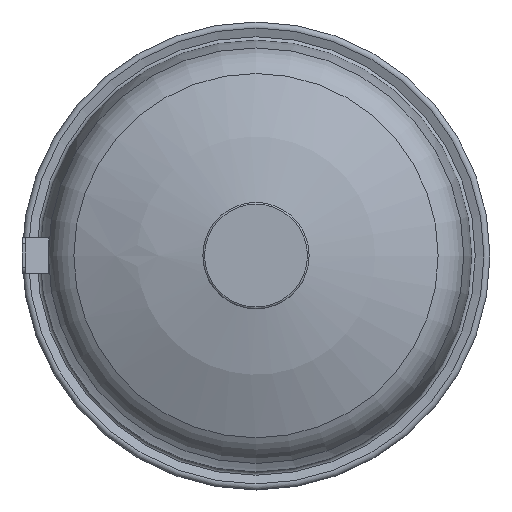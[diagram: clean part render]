
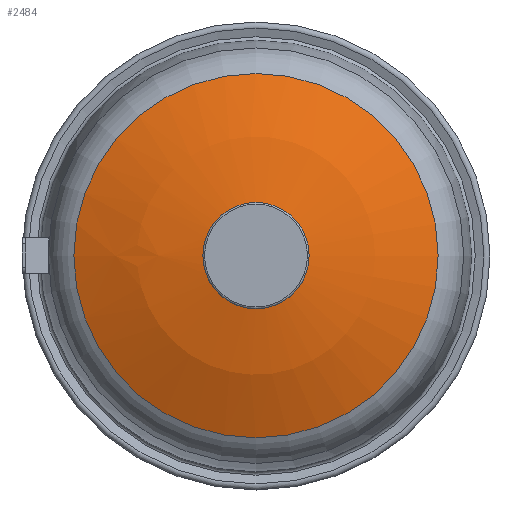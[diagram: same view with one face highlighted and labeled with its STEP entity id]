
A CAD part, top view. The second image highlights one B-rep face of the part: STEP entity #2484.
In plain terms, the highlighted spherical face has radius 366.55 mm.
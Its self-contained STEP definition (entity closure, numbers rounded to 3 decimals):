
#13=SPHERICAL_SURFACE('',#2680,366.55);
#167=FACE_OUTER_BOUND('',#302,.T.);
#302=EDGE_LOOP('',(#1802,#1803,#1804,#1805,#1806,#1807));
#930=CIRCLE('',#2677,154.144);
#931=CIRCLE('',#2678,154.144);
#933=CIRCLE('',#2681,45.);
#934=CIRCLE('',#2682,45.);
#935=CIRCLE('',#2683,366.55);
#1076=VERTEX_POINT('',#3826);
#1077=VERTEX_POINT('',#3827);
#1078=VERTEX_POINT('',#3832);
#1079=VERTEX_POINT('',#3833);
#1351=EDGE_CURVE('',#1076,#1077,#930,.T.);
#1352=EDGE_CURVE('',#1077,#1076,#931,.T.);
#1354=EDGE_CURVE('',#1078,#1079,#933,.T.);
#1355=EDGE_CURVE('',#1079,#1078,#934,.T.);
#1356=EDGE_CURVE('',#1079,#1077,#935,.T.);
#1802=ORIENTED_EDGE('',*,*,#1354,.F.);
#1803=ORIENTED_EDGE('',*,*,#1355,.F.);
#1804=ORIENTED_EDGE('',*,*,#1356,.T.);
#1805=ORIENTED_EDGE('',*,*,#1352,.T.);
#1806=ORIENTED_EDGE('',*,*,#1351,.T.);
#1807=ORIENTED_EDGE('',*,*,#1356,.F.);
#2484=ADVANCED_FACE('',(#167),#13,.T.);
#2677=AXIS2_PLACEMENT_3D('',#3828,#3049,#3050);
#2678=AXIS2_PLACEMENT_3D('',#3829,#3051,#3052);
#2680=AXIS2_PLACEMENT_3D('',#3831,#3055,#3056);
#2681=AXIS2_PLACEMENT_3D('',#3834,#3057,#3058);
#2682=AXIS2_PLACEMENT_3D('',#3835,#3059,#3060);
#2683=AXIS2_PLACEMENT_3D('',#3836,#3061,#3062);
#3049=DIRECTION('center_axis',(0.,0.,1.));
#3050=DIRECTION('ref_axis',(1.,0.,0.));
#3051=DIRECTION('center_axis',(0.,0.,1.));
#3052=DIRECTION('ref_axis',(1.,0.,0.));
#3055=DIRECTION('center_axis',(0.,0.,1.));
#3056=DIRECTION('ref_axis',(1.,0.,0.));
#3057=DIRECTION('center_axis',(0.,0.,1.));
#3058=DIRECTION('ref_axis',(1.,0.,0.));
#3059=DIRECTION('center_axis',(0.,0.,1.));
#3060=DIRECTION('ref_axis',(1.,0.,0.));
#3061=DIRECTION('center_axis',(0.,-1.,0.));
#3062=DIRECTION('ref_axis',(-1.,0.,0.));
#3826=CARTESIAN_POINT('',(154.144,0.,381.429));
#3827=CARTESIAN_POINT('',(-154.144,0.,381.429));
#3828=CARTESIAN_POINT('Origin',(0.,0.,381.429));
#3829=CARTESIAN_POINT('Origin',(0.,0.,381.429));
#3831=CARTESIAN_POINT('Origin',(0.,0.,48.865));
#3832=CARTESIAN_POINT('',(45.,0.,412.643));
#3833=CARTESIAN_POINT('',(-45.,0.,412.643));
#3834=CARTESIAN_POINT('Origin',(0.,0.,412.643));
#3835=CARTESIAN_POINT('Origin',(0.,0.,412.643));
#3836=CARTESIAN_POINT('Origin',(0.,0.,48.865));
